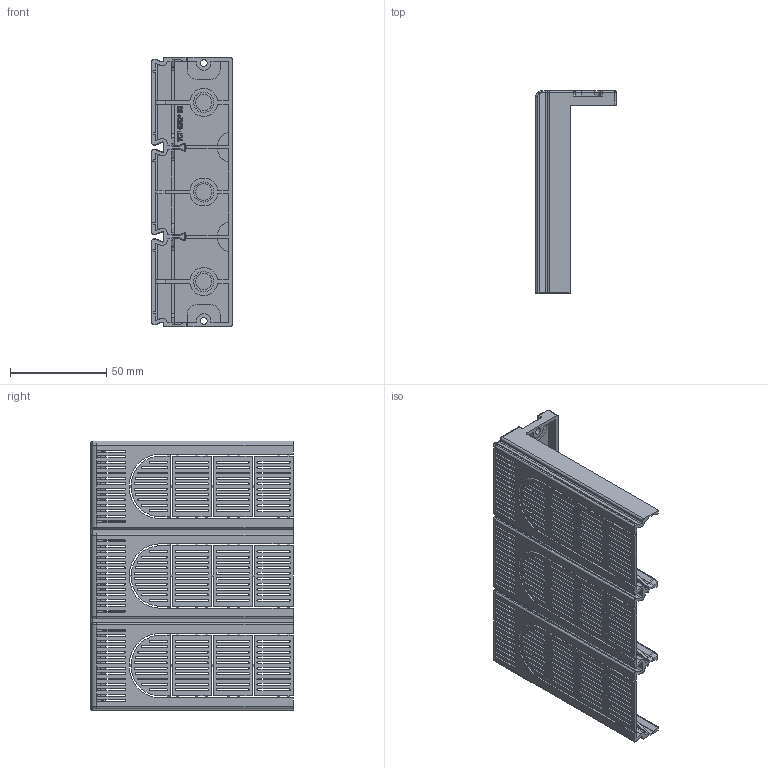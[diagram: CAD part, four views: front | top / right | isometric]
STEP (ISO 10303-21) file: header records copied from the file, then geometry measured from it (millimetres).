
FILE_DESCRIPTION((''),'2;1');
FILE_NAME('U6_3P_SHORT_TERMINAL_COVER','2018-06-04T',('HHI'),(''),'PRO/ENGINEER BY PARAMETRIC TECHNOLOGY CORPORATION, 2012453','PRO/ENGINEER BY PARAMETRIC TECHNOLOGY CORPORATION, 2012453','');
FILE_SCHEMA(('CONFIG_CONTROL_DESIGN'));
Length unit declared in the file: millimetre
Products named in the file (1): U6_3P_SHORT_TERMINAL_COVER
Bounding box: 41.8 x 105 x 140 mm (x, y, z)
Volume: 58620.5 mm3; surface area: 75330.2 mm2
Topology: 1 solids, 1 shells, 1584 faces, 4819 edges, 3124 vertices
Faces by surface type: plane 814, cylinder 509, extrusion 145, torus 46, bspline 38, cone 18, sphere 14
Entity records: 56407 total; most frequent: CARTESIAN_POINT 12389, ORIENTED_EDGE 9630, DIRECTION 8552, EDGE_CURVE 4815, VECTOR 3374, LINE 3229, VERTEX_POINT 3124, AXIS2_PLACEMENT_3D 2589
